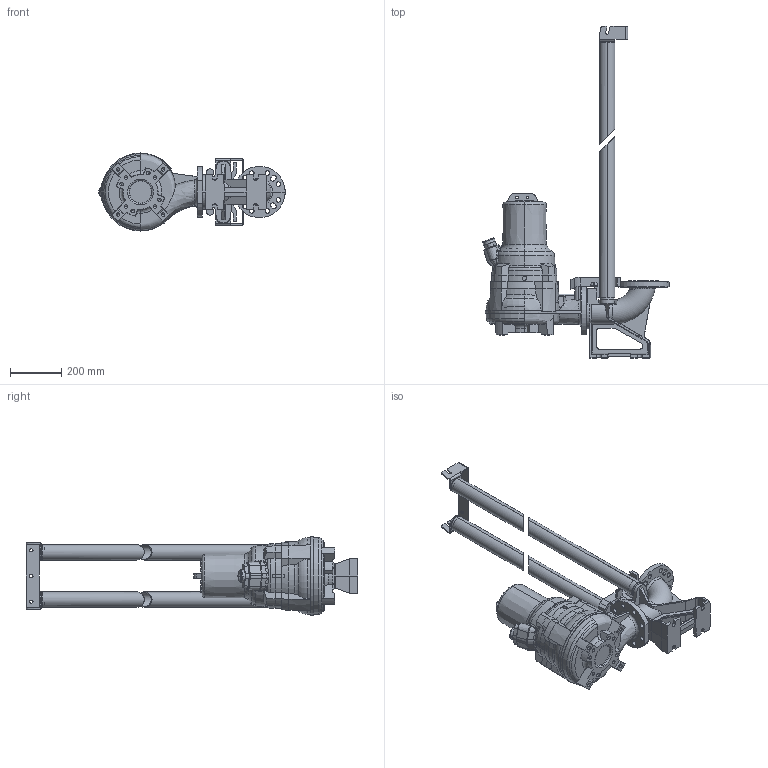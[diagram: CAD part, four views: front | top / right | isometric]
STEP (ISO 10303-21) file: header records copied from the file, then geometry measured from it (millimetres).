
FILE_DESCRIPTION (( 'STEP AP203' ), '1' );
FILE_NAME ('80FWC-V_1,6-2,2-3,1kW COUPLING SYSTEM.STEP', '2025-03-21T16:13:02', ( '' ), ( '' ), 'SwSTEP 2.0', 'SolidWorks 2023', '' );
FILE_SCHEMA (( 'CONFIG_CONTROL_DESIGN' ));
Length unit declared in the file: millimetre
Products named in the file (1): 80FWC-V_1,6-2,2-3,1kW COUPLING SYSTEM
Bounding box: 728.51 x 1297.97 x 305.91 mm (x, y, z)
Volume: 28648682.1 mm3; surface area: 1906505.8 mm2
Topology: 2 solids, 3 shells, 928 faces, 2460 edges, 1571 vertices
Faces by surface type: plane 427, cylinder 198, cone 151, bspline 93, torus 51, sphere 8
Entity records: 40179 total; most frequent: CARTESIAN_POINT 18163, ORIENTED_EDGE 4896, DIRECTION 4172, EDGE_CURVE 2448, VERTEX_POINT 1571, AXIS2_PLACEMENT_3D 1533, LINE 1106, VECTOR 1106
